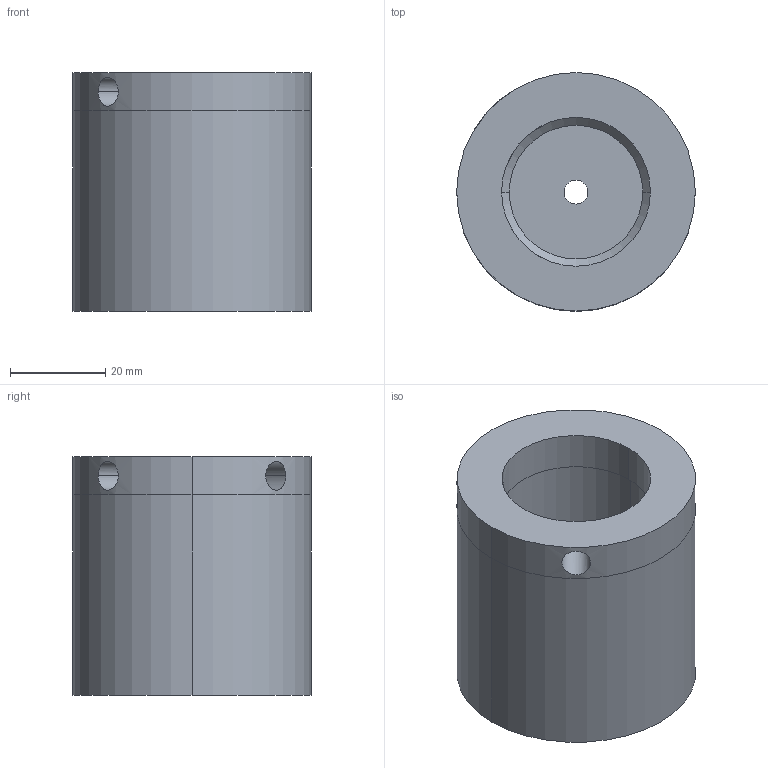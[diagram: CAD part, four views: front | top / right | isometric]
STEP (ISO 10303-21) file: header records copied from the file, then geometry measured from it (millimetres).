
FILE_DESCRIPTION(/* description */ (''),/* implementation_level */ '2;1');
FILE_NAME(/* name */ '3d_usn32-50_06271_r00.stp',/* time_stamp */ '2011-01-10T14:08:53+09:00',/* author */ ('MISUMI'),/* organization */ (''),/* preprocessor_version */ 'ST-DEVELOPER v11',/* originating_system */ 'UGS - NX 5.0',/* authorisation */ '');
FILE_SCHEMA (('CONFIG_CONTROL_DESIGN'));
Length unit declared in the file: millimetre
Products named in the file (1): 3d_usn32-50_06271_r00
Bounding box: 50 x 50 x 50 mm (x, y, z)
Volume: 63431.9 mm3; surface area: 16353.8 mm2
Topology: 1 solids, 1 shells, 20 faces, 44 edges, 28 vertices
Faces by surface type: cylinder 14, plane 4, cone 2
Entity records: 878 total; most frequent: CARTESIAN_POINT 333, DIRECTION 98, ORIENTED_EDGE 88, EDGE_CURVE 44, AXIS2_PLACEMENT_3D 41, EDGE_LOOP 28, VERTEX_POINT 28, ADVANCED_FACE 20
